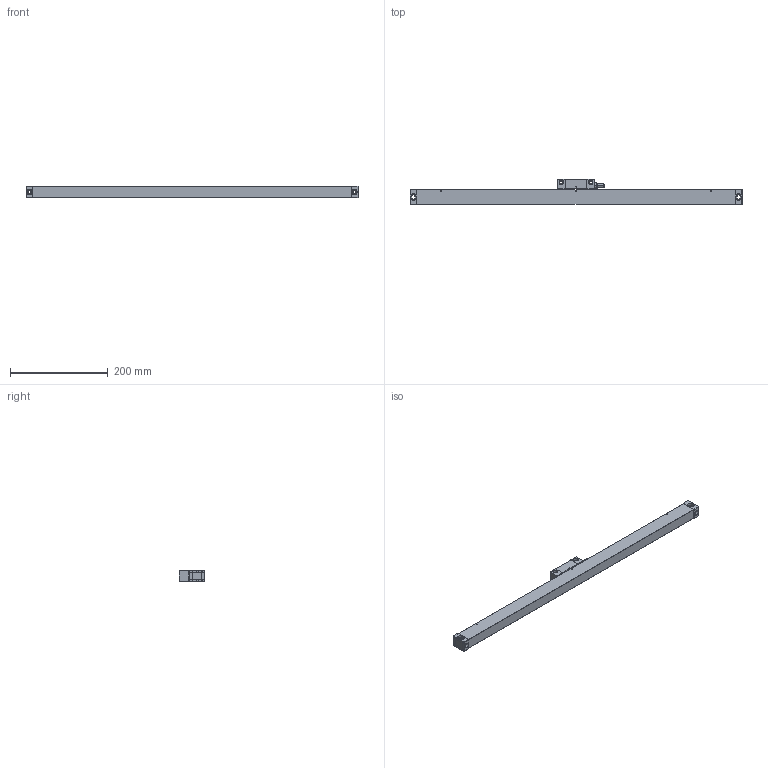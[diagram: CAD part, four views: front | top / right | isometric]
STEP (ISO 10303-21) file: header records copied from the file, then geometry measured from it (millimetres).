
FILE_DESCRIPTION (( 'STEP AP214' ), '1' );
FILE_NAME ('JCXE550-W5.step', '2023-05-09T02:47:49', ( 'IT Division' ), ( 'IT' ), 'SwSTEP 2.0', 'SolidWorks 2016', '' );
FILE_SCHEMA (( 'AUTOMOTIVE_DESIGN' ));
Length unit declared in the file: millimetre
Products named in the file (1): JCXE550-W5
Bounding box: 678 x 52.5 x 23.5 mm (x, y, z)
Volume: 462773.7 mm3; surface area: 86180.4 mm2
Topology: 2 solids, 2 shells, 307 faces, 756 edges, 466 vertices
Faces by surface type: cylinder 138, plane 134, torus 22, sphere 11, cone 2
Entity records: 9260 total; most frequent: CARTESIAN_POINT 1860, DIRECTION 1588, ORIENTED_EDGE 1486, EDGE_CURVE 743, AXIS2_PLACEMENT_3D 596, VERTEX_POINT 464, LINE 396, VECTOR 396
